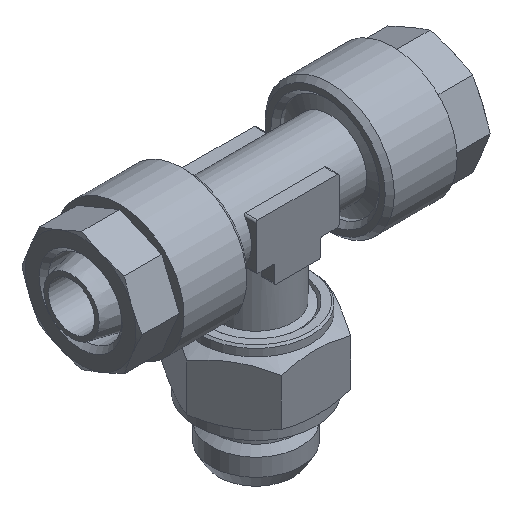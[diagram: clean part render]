
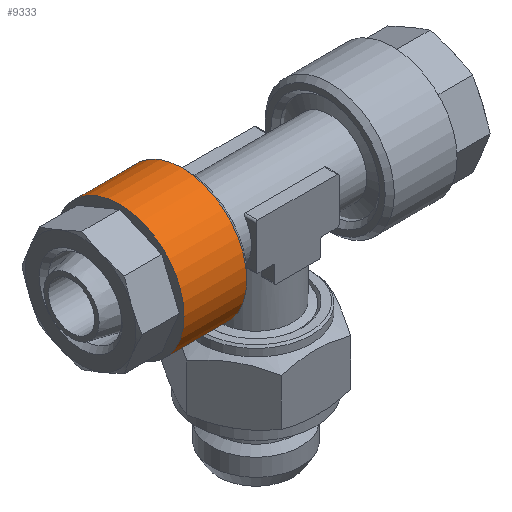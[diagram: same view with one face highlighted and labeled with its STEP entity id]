
A CAD part, isometric view. The second image highlights one B-rep face of the part: STEP entity #9333.
In plain terms, the highlighted cylindrical face has radius 7 mm (diameter 14 mm), a full revolution.
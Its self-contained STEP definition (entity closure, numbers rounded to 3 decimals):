
#3622=ORIENTED_EDGE('',*,*,#4245,.F.);
#3623=ORIENTED_EDGE('',*,*,#4246,.T.);
#3801=CIRCLE('',#9102,7.);
#3802=CIRCLE('',#9104,7.);
#3984=VERTEX_POINT('',#8747);
#3985=VERTEX_POINT('',#8750);
#4245=EDGE_CURVE('',#3984,#3984,#3801,.T.);
#4246=EDGE_CURVE('',#3985,#3985,#3802,.T.);
#4445=EDGE_LOOP('',(#3622));
#4446=EDGE_LOOP('',(#3623));
#4651=FACE_BOUND('',#4445,.T.);
#4652=FACE_BOUND('',#4446,.T.);
#5241=DIRECTION('',(0.,1.,0.));
#5242=DIRECTION('',(0.,0.,-7.));
#5243=DIRECTION('',(0.,1.,0.));
#5244=DIRECTION('',(1.,0.,0.));
#5245=DIRECTION('',(0.,1.,0.));
#5246=DIRECTION('',(0.,0.,7.));
#8747=CARTESIAN_POINT('',(26.989,21.895,-7.));
#8748=CARTESIAN_POINT('',(26.989,21.895,0.));
#8749=CARTESIAN_POINT('',(26.989,15.095,0.));
#8750=CARTESIAN_POINT('',(26.989,15.095,7.));
#8751=CARTESIAN_POINT('',(26.989,15.095,0.));
#9102=AXIS2_PLACEMENT_3D('',#8748,#5241,#5242);
#9103=AXIS2_PLACEMENT_3D('',#8749,#5243,#5244);
#9104=AXIS2_PLACEMENT_3D('',#8751,#5245,#5246);
#9219=CYLINDRICAL_SURFACE('',#9103,7.);
#9333=ADVANCED_FACE('',(#4651,#4652),#9219,.T.);
